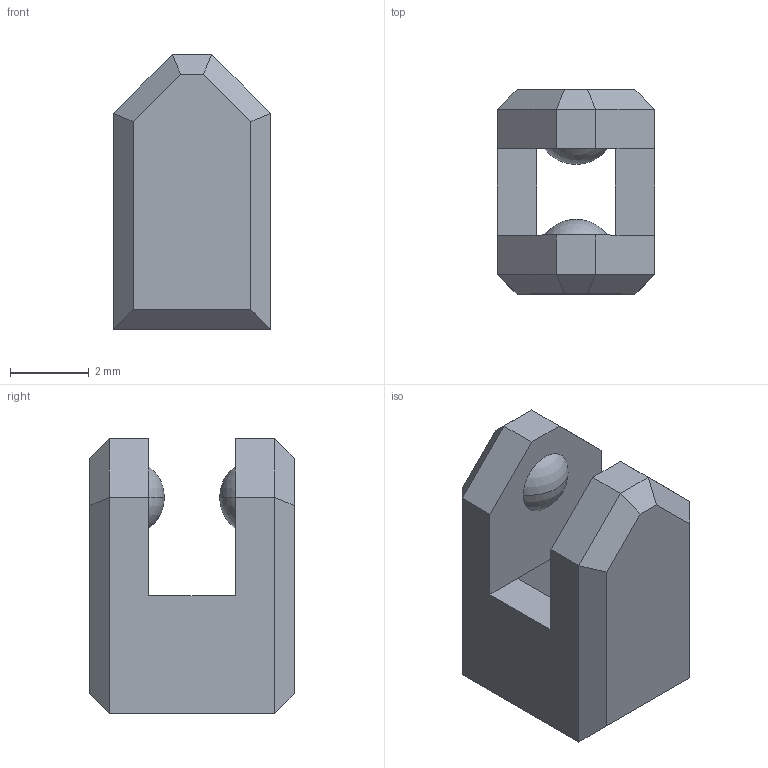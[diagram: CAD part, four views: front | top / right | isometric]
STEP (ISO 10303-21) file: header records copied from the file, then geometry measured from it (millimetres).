
FILE_DESCRIPTION (( 'STEP AP214' ), '1' );
FILE_NAME ('Ankle ArmorA1.STEP', '2023-12-26T21:06:52', ( '' ), ( '' ), 'SwSTEP 2.0', 'SolidWorks 2023', '' );
FILE_SCHEMA (( 'AUTOMOTIVE_DESIGN' ));
Length unit declared in the file: millimetre
Products named in the file (1): Ankle ArmorA1
Bounding box: 4 x 5.2 x 7 mm (x, y, z)
Volume: 80.6 mm3; surface area: 181.3 mm2
Topology: 1 solids, 1 shells, 37 faces, 88 edges, 54 vertices
Faces by surface type: plane 33, sphere 4
Entity records: 1065 total; most frequent: CARTESIAN_POINT 180, ORIENTED_EDGE 176, DIRECTION 172, EDGE_CURVE 88, LINE 80, VECTOR 80, VERTEX_POINT 54, AXIS2_PLACEMENT_3D 46
